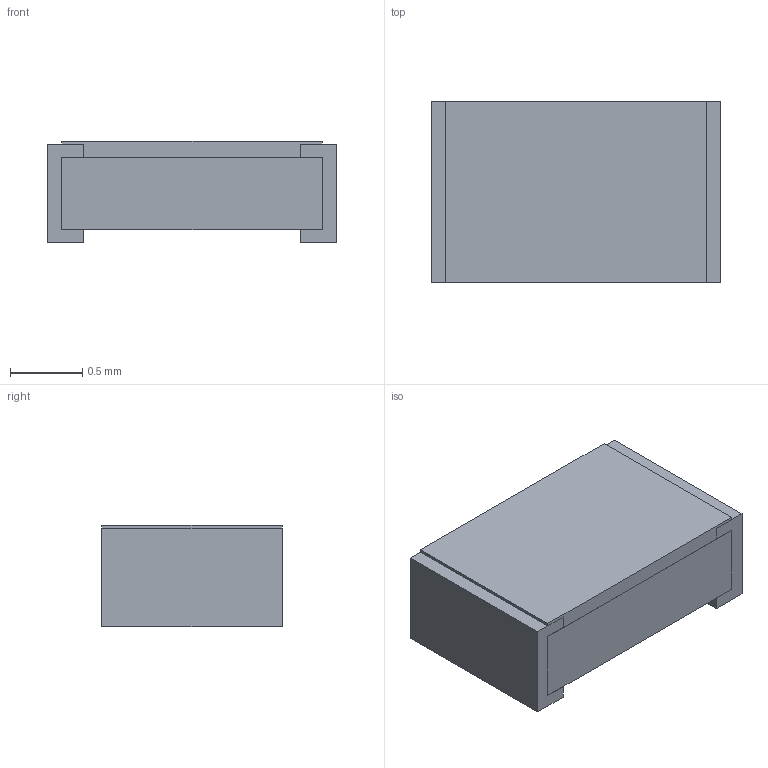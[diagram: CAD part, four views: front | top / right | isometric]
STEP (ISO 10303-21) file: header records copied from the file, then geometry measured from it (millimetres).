
FILE_DESCRIPTION(('STEP AP242'), '1');
FILE_NAME('Ð1-81-0,125', '', ('UNSPECIFIED'), ('UNSPECIFIED'), 'ASCON STEP Converter 1.6', 'ASCON Math Kernel', '');
FILE_SCHEMA(('AP242_MANAGED_MODEL_BASED_3D_ENGINEERING_MIM_LF { 1 0 10303 442 1 1 4 }'));
Length unit declared in the file: millimetre
Bounding box: 2 x 1.25 x 0.7 mm (x, y, z)
Volume: 1.6 mm3; surface area: 19.6 mm2
Topology: 4 solids, 5 shells, 55 faces, 135 edges, 90 vertices
Faces by surface type: plane 51, cylinder 4
Entity records: 2101 total; most frequent: CARTESIAN_POINT 281, ORIENTED_EDGE 270, DIRECTION 255, EDGE_CURVE 135, LINE 127, VECTOR 127, VERTEX_POINT 90, AXIS2_PLACEMENT_3D 64
